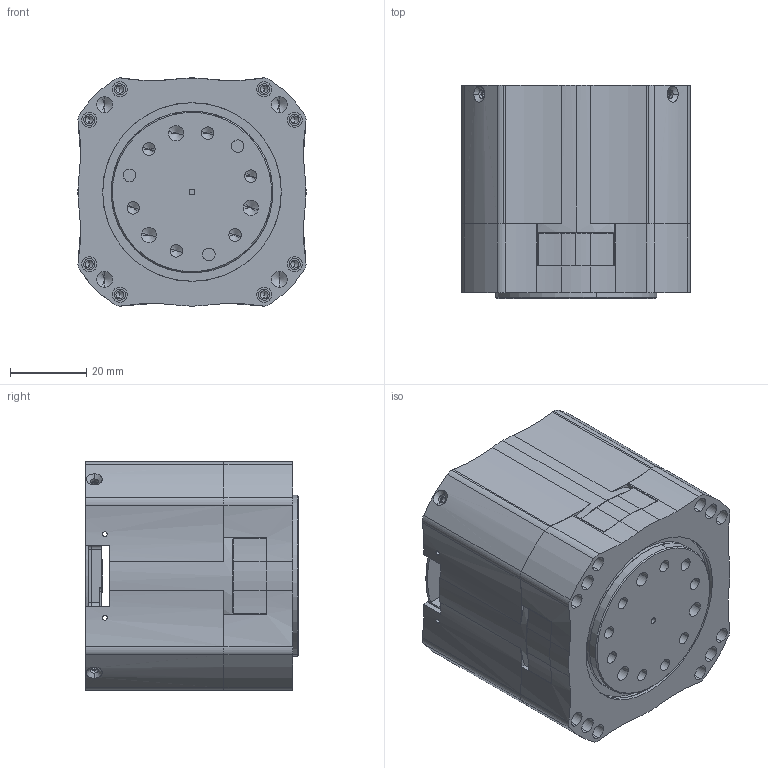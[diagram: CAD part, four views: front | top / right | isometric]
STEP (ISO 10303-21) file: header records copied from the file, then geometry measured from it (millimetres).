
FILE_DESCRIPTION (( 'STEP AP214' ), '1' );
FILE_NAME ('6056交叉滚子版本简易模型.STEP', '2025-06-06T01:53:18', ( '' ), ( '' ), 'SwSTEP 2.0', 'SolidWorks 2024', '' );
FILE_SCHEMA (( 'AUTOMOTIVE_DESIGN' ));
Length unit declared in the file: millimetre
Products named in the file (7): 二级内齿-1.1; 6056交叉滚子版本简易模型; CRBT 405 A0914-1.1; 6056外壳-端子处开螺纹孔-1.1; 电机盖6055端子版-1.1; 6056交叉滚子版本正装轴承座-1.1; 6056交叉滚子版本输出盘-1.1
Assembly tree (6 placements, depth 2):
  6056交叉滚子版本简易模型
    6056交叉滚子版本正装轴承座-1.1
    6056交叉滚子版本输出盘-1.1
    CRBT 405 A0914-1.1
    二级内齿-1.1
    6056外壳-端子处开螺纹孔-1.1
    电机盖6055端子版-1.1
Bounding box: 60 x 56 x 60 mm (x, y, z)
Volume: 71566.4 mm3; surface area: 60330.9 mm2
Topology: 6 solids, 6 shells, 1848 faces, 5415 edges, 3578 vertices
Faces by surface type: cylinder 993, plane 480, bspline 252, cone 123
Entity records: 66840 total; most frequent: CARTESIAN_POINT 19771, ORIENTED_EDGE 10686, DIRECTION 8774, EDGE_CURVE 5343, VERTEX_POINT 3578, AXIS2_PLACEMENT_3D 3259, VECTOR 2256, LINE 2256
